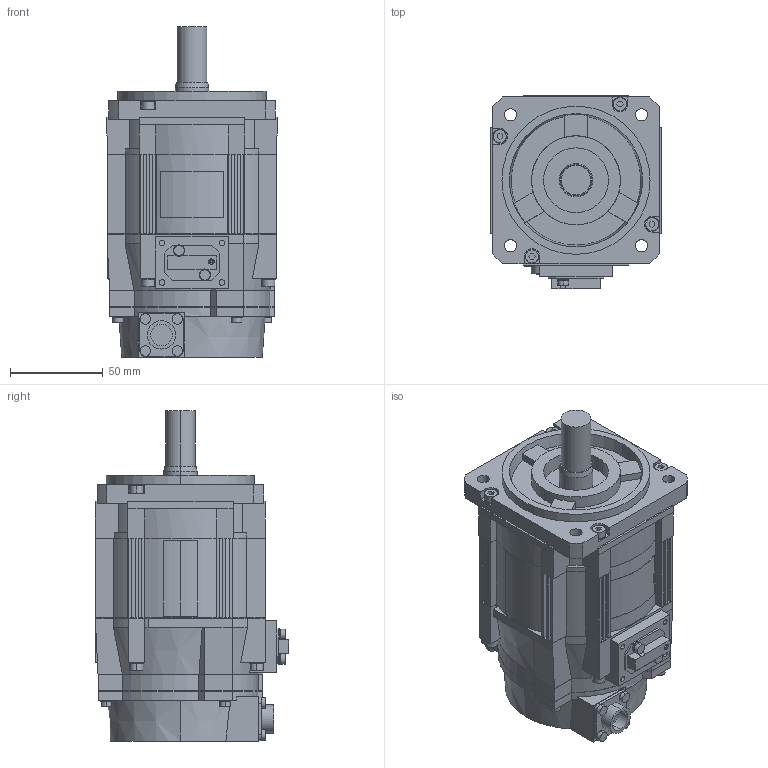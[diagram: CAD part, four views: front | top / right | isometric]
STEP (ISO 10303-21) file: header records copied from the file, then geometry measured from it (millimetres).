
FILE_DESCRIPTION (( 'STEP AP203' ), '1' );
FILE_NAME ('sgm7g_05__a21.STEP', '2014-05-07T05:06:39', ( '匠エンジニアリング山之内' ), ( 'TAKUMI-Engniaring' ), 'SwSTEP 2.0', 'SolidWorks 2006303', '' );
FILE_SCHEMA (( 'CONFIG_CONTROL_DESIGN' ));
Length unit declared in the file: millimetre
Products named in the file (1): sgm7g_05__a21
Bounding box: 92 x 104.5 x 178.6 mm (x, y, z)
Volume: 937628.4 mm3; surface area: 86852.3 mm2
Topology: 1 solids, 1 shells, 621 faces, 1550 edges, 1001 vertices
Faces by surface type: plane 433, cylinder 167, cone 21
Entity records: 18567 total; most frequent: CARTESIAN_POINT 3350, DIRECTION 3163, ORIENTED_EDGE 3100, EDGE_CURVE 1550, VECTOR 1101, LINE 1101, AXIS2_PLACEMENT_3D 1031, VERTEX_POINT 1001
